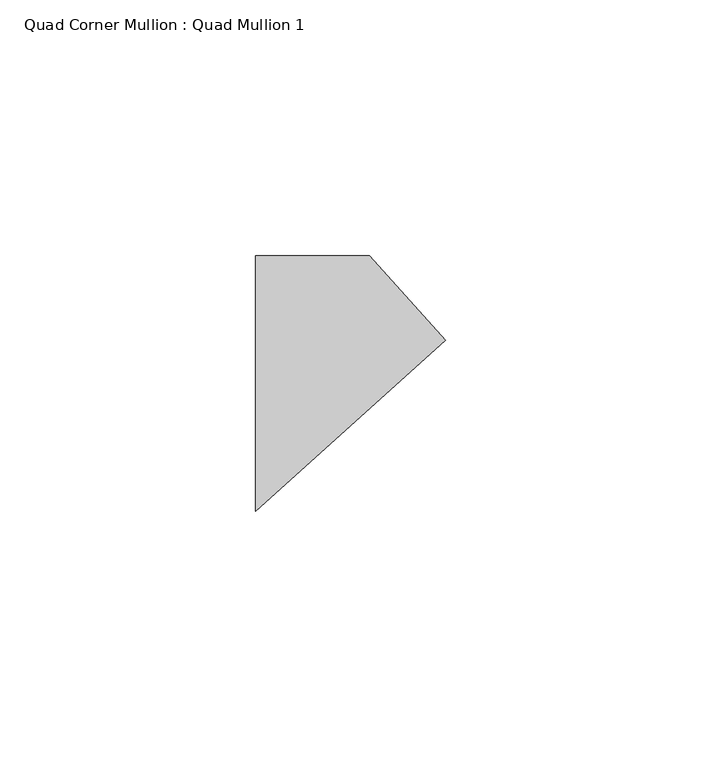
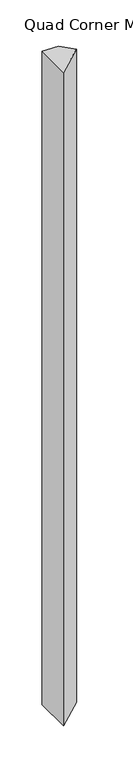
"""IFC4 building model written with IfcOpenShell, lengths in millimetres: member geometry, Quad Corner Mullion : Quad Mullion 1."""

from ifc_helpers import new_model, si_unit, frame, origin, place, context, project, spatial, polyline, outline, extrude, source, transform, mapped, element, save


def quad_corner_mullion_quad_mullion_1_f5db510b(model_context):
    return source(origin(), model_context, "Body", "SweptSolid", [
        extrude(outline(polyline([(26.0265241, 8.4565303), (-11.1307171, -25.0), (-11.1307171, 25.0), (11.1307171, 25.0), (26.0265241, 8.4565303)])), frame((0.0, 0.0, -940.0), z_axis=(0.0, 0.0, 1.0), x_axis=(1.0, 0.0, 0.0)), (0.0, 0.0, 1.0), 940.0),
    ])


if __name__ == "__main__":
    model = new_model("IFC4")
    model_context = context("Model", 3, world=origin())
    ifc_project = project(units=[si_unit("LENGTHUNIT", "METRE", prefix="MILLI")], contexts=[model_context])
    site = spatial("IfcSite", under=ifc_project)
    building = spatial("IfcBuilding", under=site)
    placement = place(None, origin())
    quad_corner_mullion_quad_mullion_1_shape = quad_corner_mullion_quad_mullion_1_f5db510b(model_context)
    element("IfcMember", 1, ObjectType="Quad Corner Mullion : Quad Mullion 1", at=placement, inside=building, context=model_context, shape_type="MappedRepresentation", body=[
        mapped(quad_corner_mullion_quad_mullion_1_shape, transform((0.0, 0.0, 0.0), x_axis=(1.0, 0.0, 0.0), y_axis=(0.0, 1.0, 0.0), z_axis=(0.0, 0.0, 1.0))),
    ])
    save(model, "model.ifc")
